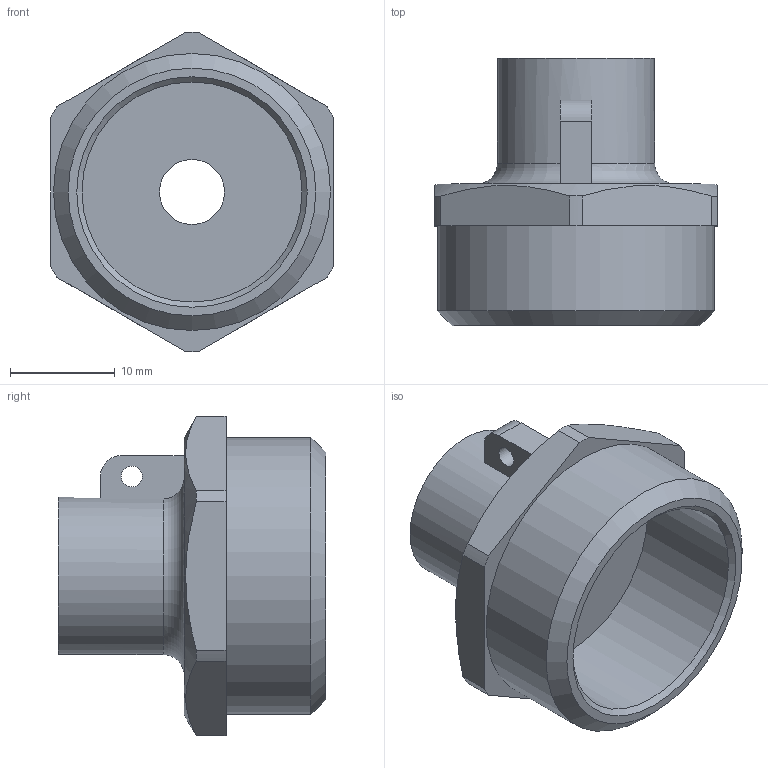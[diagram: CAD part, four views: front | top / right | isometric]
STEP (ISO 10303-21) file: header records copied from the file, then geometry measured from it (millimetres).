
FILE_DESCRIPTION(('STEP AP203'), '1');
FILE_NAME('ÂÐ.753138.002 - VTr.424.N.M005 Ïåðåõ. äàò÷. òåìï', '2024-07-03T06:54:33', ('Boss'), (''), 'C3D Converter', 'C3D Toolkit', '');
FILE_SCHEMA(('CONFIG_CONTROL_DESIGN'));
Length unit declared in the file: millimetre
Products named in the file (1): ВР.753138.002
Bounding box: 27 x 25.5 x 30.5 mm (x, y, z)
Volume: 5135.8 mm3; surface area: 3936.7 mm2
Topology: 1 solids, 1 shells, 34 faces, 81 edges, 53 vertices
Faces by surface type: plane 16, cylinder 13, cone 4, torus 1
Full cylindrical faces by diameter (mm): 2 x1, 6.2 x1, 8.917 x1, 15 x1, 21 x1, 26.441 x1
Entity records: 1310 total; most frequent: CARTESIAN_POINT 504, DIRECTION 165, ORIENTED_EDGE 142, EDGE_CURVE 71, AXIS2_PLACEMENT_3D 68, VERTEX_POINT 53, EDGE_LOOP 52, ADVANCED_FACE 34
